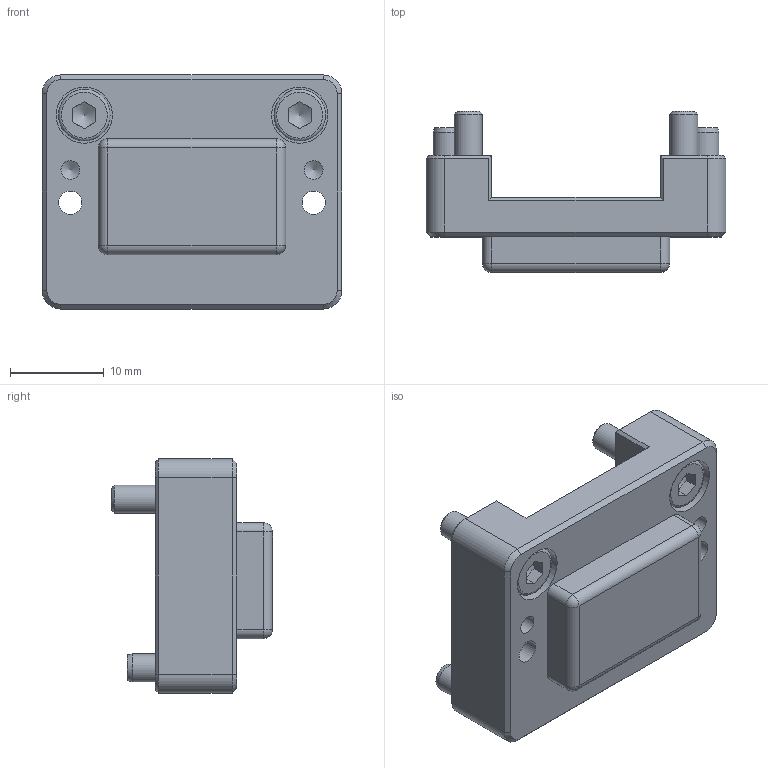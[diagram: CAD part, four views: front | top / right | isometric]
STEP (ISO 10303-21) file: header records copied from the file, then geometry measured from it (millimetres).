
FILE_DESCRIPTION(/* description */ (''),/* implementation_level */ '2;1');
FILE_NAME(/* name */ 'ZG-AP-SEK100-SHS063-O.stp',/* time_stamp */ '2024-11-13T16:05:31+01:00',/* author */ ('ysplieth'),/* organization */ (''),/* preprocessor_version */ 'ST-DEVELOPER v20',/* originating_system */ 'Autodesk Inventor 2024',/* authorisation */ '');
FILE_SCHEMA (('AUTOMOTIVE_DESIGN { 1 0 10303 214 3 1 1 }'));
Length unit declared in the file: millimetre
Products named in the file (1): Bauteil12
Bounding box: 32 x 17.2 x 25 mm (x, y, z)
Volume: 5713.1 mm3; surface area: 3594.2 mm2
Topology: 1 solids, 3 shells, 111 faces, 246 edges, 150 vertices
Faces by surface type: plane 55, cylinder 28, cone 20, torus 4, sphere 4
Full cylindrical faces by diameter (mm): 2 x2, 2.5 x2, 3 x6, 3.4 x2, 5.5 x2, 6 x2
Entity records: 3171 total; most frequent: DIRECTION 536, CARTESIAN_POINT 530, ORIENTED_EDGE 480, EDGE_CURVE 240, AXIS2_PLACEMENT_3D 198, VERTEX_POINT 150, LINE 140, VECTOR 140
